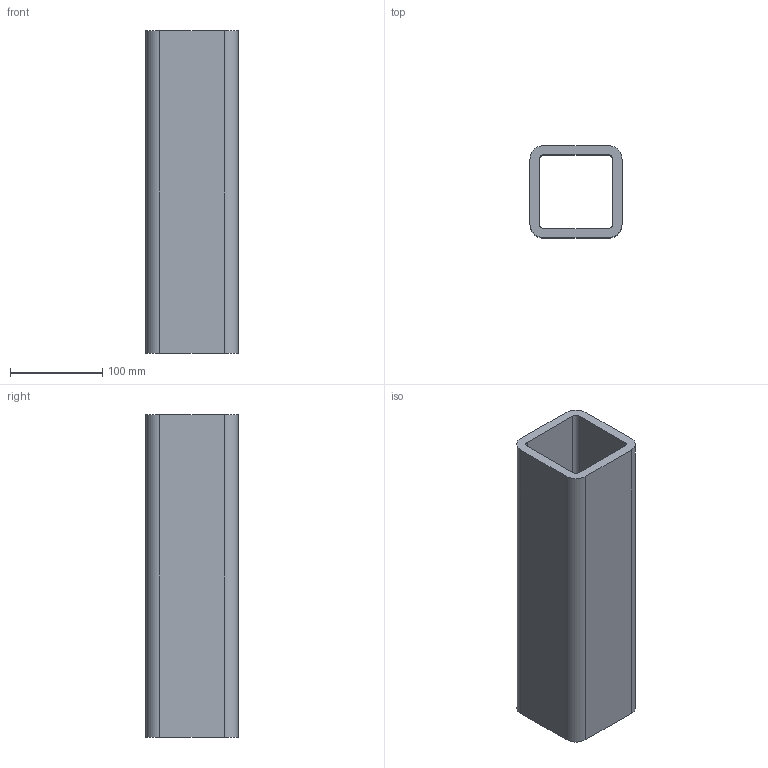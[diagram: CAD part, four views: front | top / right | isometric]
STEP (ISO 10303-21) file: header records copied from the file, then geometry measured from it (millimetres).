
FILE_DESCRIPTION(('Open CASCADE Model'),'2;1');
FILE_NAME('Open CASCADE Shape Model','2026-10-19T10:09:20',('Author'),( 'Open CASCADE'),'Open CASCADE STEP processor 8.0','Open CASCADE 8.0' ,'Unknown');
FILE_SCHEMA(('AUTOMOTIVE_DESIGN { 1 0 10303 214 1 1 1 1 }'));
Length unit declared in the file: millimetre
Products named in the file (1): TC03_BRAZO_SHS100x100x10_S355_L300_P05 107
Bounding box: 100 x 100 x 350 mm (x, y, z)
Volume: 1199911.5 mm3; surface area: 246838.9 mm2
Topology: 1 solids, 1 shells, 18 faces, 48 edges, 32 vertices
Faces by surface type: plane 10, cylinder 8
Entity records: 1254 total; most frequent: CARTESIAN_POINT 291, DIRECTION 182, LINE 112, VECTOR 112, ORIENTED_EDGE 96, PCURVE 96, DEFINITIONAL_REPRESENTATION 96, EDGE_CURVE 48
